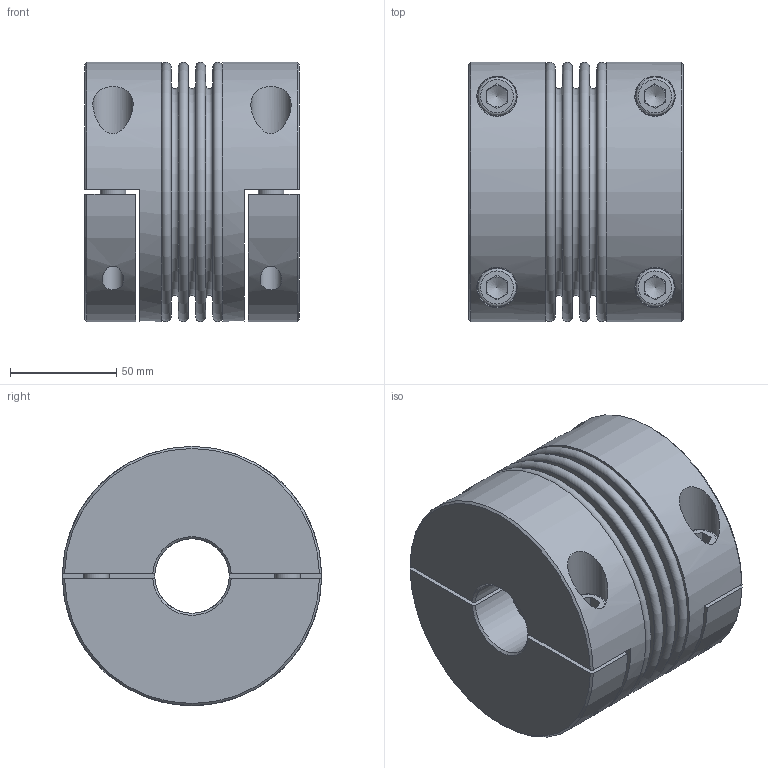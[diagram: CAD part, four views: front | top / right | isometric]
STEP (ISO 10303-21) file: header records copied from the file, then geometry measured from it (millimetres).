
FILE_DESCRIPTION( ( 'Unknown' ), '1' );
FILE_NAME( 'C:/Users/skarpstein/Desktop/KB4HC/KB4HC-500-100.stp', 'Unknown', ( 'Unknown' ), ( 'Unknown' ), 'PSStep 16.0.42', 'Unknown', ' ' );
FILE_SCHEMA( ( 'AUTOMOTIVE_DESIGN { 1 0 10303 214 1 1 1 1 }' ) );
Length unit declared in the file: millimetre
Products named in the file (5): Assem1; KN4HC-500; BK500_Standard_0; Socket Head Cap Screw_DIN_DIN 912 M12 x 40 --- 40N_0
Assembly tree (9 placements, depth 2):
  Assem1
    KN4HC-500  x2
    KN4HC-500  x2
    BK500_Standard_0
    Socket Head Cap Screw_DIN_DIN 912 M12 x 40 --- 40N_0  x4
Bounding box: 100.95 x 122 x 122 mm (x, y, z)
Volume: 744787.7 mm3; surface area: 211996.4 mm2
Topology: 9 solids, 9 shells, 170 faces, 358 edges, 228 vertices
Faces by surface type: plane 100, cylinder 32, torus 22, cone 16
Full cylindrical faces by diameter (mm): 10.106 x4, 12 x4, 12.5 x4, 18 x4, 19 x4, 35 x2, 107.7 x2, 108.9 x2, 122 x2
Entity records: 3098 total; most frequent: CARTESIAN_POINT 697, DIRECTION 366, ORIENTED_EDGE 246, AXIS2_PLACEMENT_3D 163, EDGE_LOOP 144, EDGE_CURVE 123, FACE_OUTER_BOUND 112, VERTEX_POINT 108
